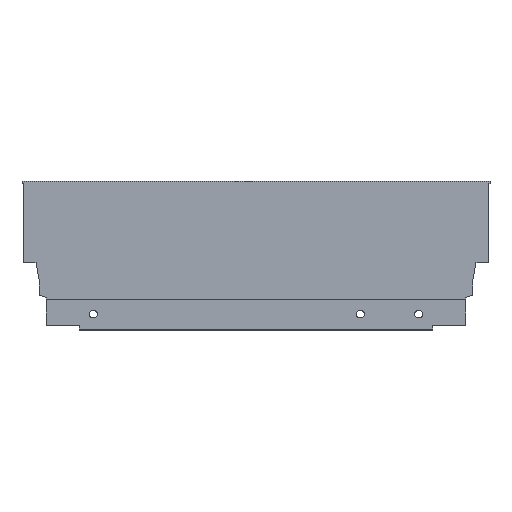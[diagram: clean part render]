
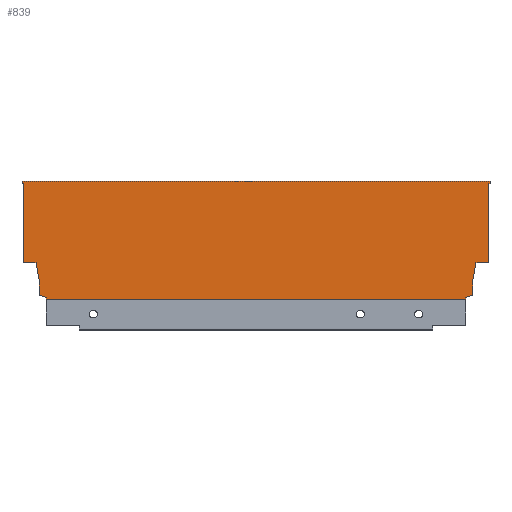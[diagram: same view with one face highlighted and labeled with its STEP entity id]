
A CAD part, top view. The second image highlights one B-rep face of the part: STEP entity #839.
In plain terms, the highlighted planar face has unit normal (0, 0, 1).
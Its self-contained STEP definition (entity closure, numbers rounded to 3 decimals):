
#102 = LINE ( 'NONE', #1101, #103 ) ;
#103 = VECTOR ( 'NONE', #1102, 1000. ) ;
#131 = LINE ( 'NONE', #1148, #154 ) ;
#135 = LINE ( 'NONE', #1140, #136 ) ;
#136 = VECTOR ( 'NONE', #1141, 1000. ) ;
#138 = LINE ( 'NONE', #1135, #142 ) ;
#140 = LINE ( 'NONE', #1146, #141 ) ;
#141 = VECTOR ( 'NONE', #1147, 1000. ) ;
#142 = VECTOR ( 'NONE', #1149, 1000. ) ;
#144 = LINE ( 'NONE', #1150, #145 ) ;
#145 = VECTOR ( 'NONE', #1151, 1000. ) ;
#146 = LINE ( 'NONE', #1152, #147 ) ;
#147 = VECTOR ( 'NONE', #1153, 1000. ) ;
#148 = LINE ( 'NONE', #1154, #149 ) ;
#149 = VECTOR ( 'NONE', #1155, 1000. ) ;
#150 = LINE ( 'NONE', #1156, #151 ) ;
#151 = VECTOR ( 'NONE', #1157, 1000. ) ;
#152 = LINE ( 'NONE', #1159, #153 ) ;
#153 = VECTOR ( 'NONE', #1160, 1000. ) ;
#154 = VECTOR ( 'NONE', #1162, 1000. ) ;
#156 = LINE ( 'NONE', #1163, #157 ) ;
#157 = VECTOR ( 'NONE', #1164, 1000. ) ;
#158 = LINE ( 'NONE', #1165, #159 ) ;
#159 = VECTOR ( 'NONE', #1166, 1000. ) ;
#160 = LINE ( 'NONE', #1167, #161 ) ;
#161 = VECTOR ( 'NONE', #1168, 1000. ) ;
#162 = LINE ( 'NONE', #1169, #163 ) ;
#163 = VECTOR ( 'NONE', #1170, 1000. ) ;
#164 = LINE ( 'NONE', #1171, #165 ) ;
#165 = VECTOR ( 'NONE', #1172, 1000. ) ;
#166 = LINE ( 'NONE', #1173, #167 ) ;
#167 = VECTOR ( 'NONE', #1174, 1000. ) ;
#168 = LINE ( 'NONE', #1175, #169 ) ;
#169 = VECTOR ( 'NONE', #1176, 1000. ) ;
#170 = LINE ( 'NONE', #1593, #171 ) ;
#171 = VECTOR ( 'NONE', #1594, 1000. ) ;
#318 = AXIS2_PLACEMENT_3D ( 'NONE', #922, #928, #929 ) ;
#380 = EDGE_LOOP ( 'NONE', ( #429, #430, #431, #432, #433, #434, #435, #436, #437, #438, #439, #440, #441, #442, #1323, #1324, #1325, #1326 ) ) ;
#429 = ORIENTED_EDGE ( 'NONE', *, *, #1225, .F. ) ;
#430 = ORIENTED_EDGE ( 'NONE', *, *, #1220, .F. ) ;
#431 = ORIENTED_EDGE ( 'NONE', *, *, #1221, .T. ) ;
#432 = ORIENTED_EDGE ( 'NONE', *, *, #1222, .T. ) ;
#433 = ORIENTED_EDGE ( 'NONE', *, *, #1223, .F. ) ;
#434 = ORIENTED_EDGE ( 'NONE', *, *, #1216, .F. ) ;
#435 = ORIENTED_EDGE ( 'NONE', *, *, #1227, .F. ) ;
#436 = ORIENTED_EDGE ( 'NONE', *, *, #1224, .F. ) ;
#437 = ORIENTED_EDGE ( 'NONE', *, *, #1229, .F. ) ;
#438 = ORIENTED_EDGE ( 'NONE', *, *, #1219, .T. ) ;
#439 = ORIENTED_EDGE ( 'NONE', *, *, #1231, .F. ) ;
#440 = ORIENTED_EDGE ( 'NONE', *, *, #1233, .F. ) ;
#441 = ORIENTED_EDGE ( 'NONE', *, *, #1226, .F. ) ;
#442 = ORIENTED_EDGE ( 'NONE', *, *, #1228, .F. ) ;
#523 = VERTEX_POINT ( 'NONE', #738 ) ;
#542 = VERTEX_POINT ( 'NONE', #752 ) ;
#551 = VERTEX_POINT ( 'NONE', #761 ) ;
#558 = VERTEX_POINT ( 'NONE', #768 ) ;
#559 = VERTEX_POINT ( 'NONE', #769 ) ;
#566 = VERTEX_POINT ( 'NONE', #776 ) ;
#568 = VERTEX_POINT ( 'NONE', #778 ) ;
#572 = VERTEX_POINT ( 'NONE', #782 ) ;
#574 = VERTEX_POINT ( 'NONE', #784 ) ;
#575 = VERTEX_POINT ( 'NONE', #785 ) ;
#577 = VERTEX_POINT ( 'NONE', #787 ) ;
#578 = VERTEX_POINT ( 'NONE', #788 ) ;
#579 = VERTEX_POINT ( 'NONE', #789 ) ;
#584 = VERTEX_POINT ( 'NONE', #794 ) ;
#587 = VERTEX_POINT ( 'NONE', #797 ) ;
#591 = VERTEX_POINT ( 'NONE', #801 ) ;
#593 = VERTEX_POINT ( 'NONE', #803 ) ;
#595 = VERTEX_POINT ( 'NONE', #805 ) ;
#738 = CARTESIAN_POINT ( 'NONE',  ( 0., 21.2, 7.5 ) ) ;
#752 = CARTESIAN_POINT ( 'NONE',  ( 0., 66.5, 7.5 ) ) ;
#761 = CARTESIAN_POINT ( 'NONE',  ( 1., 66.5, 7.5 ) ) ;
#768 = CARTESIAN_POINT ( 'NONE',  ( -267., 21.2, 7.5 ) ) ;
#769 = CARTESIAN_POINT ( 'NONE',  ( -267., 66.5, 7.5 ) ) ;
#776 = CARTESIAN_POINT ( 'NONE',  ( 1., 68., 7.5 ) ) ;
#778 = CARTESIAN_POINT ( 'NONE',  ( -7.06, 21.2, 7.5 ) ) ;
#782 = CARTESIAN_POINT ( 'NONE',  ( -8.9, 2.64, 7.5 ) ) ;
#784 = CARTESIAN_POINT ( 'NONE',  ( -259.94, 21.2, 7.5 ) ) ;
#785 = CARTESIAN_POINT ( 'NONE',  ( -8.9, 10.765, 7.5 ) ) ;
#787 = CARTESIAN_POINT ( 'NONE',  ( -253.996, 1.146, 7.5 ) ) ;
#788 = CARTESIAN_POINT ( 'NONE',  ( -13.004, 1.146, 7.5 ) ) ;
#789 = CARTESIAN_POINT ( 'NONE',  ( -253.996, 0., 7.5 ) ) ;
#794 = CARTESIAN_POINT ( 'NONE',  ( -258.1, 2.64, 7.5 ) ) ;
#797 = CARTESIAN_POINT ( 'NONE',  ( -258.1, 10.765, 7.5 ) ) ;
#801 = CARTESIAN_POINT ( 'NONE',  ( -268., 68., 7.5 ) ) ;
#803 = CARTESIAN_POINT ( 'NONE',  ( -13.004, 0., 7.5 ) ) ;
#805 = CARTESIAN_POINT ( 'NONE',  ( -268., 66.5, 7.5 ) ) ;
#839 = ADVANCED_FACE ( 'NONE', ( #1580 ), #919, .T. ) ;
#919 = PLANE ( 'NONE',  #318 ) ;
#922 = CARTESIAN_POINT ( 'NONE',  ( -267., 0., 7.5 ) ) ;
#928 = DIRECTION ( 'NONE',  ( 0., 0., 1. ) ) ;
#929 = DIRECTION ( 'NONE',  ( 1., 0., 0. ) ) ;
#1101 = CARTESIAN_POINT ( 'NONE',  ( 0., 0., 7.5 ) ) ;
#1102 = DIRECTION ( 'NONE',  ( 0., -1., 0. ) ) ;
#1135 = CARTESIAN_POINT ( 'NONE',  ( -268., 66.5, 7.5 ) ) ;
#1140 = CARTESIAN_POINT ( 'NONE',  ( -259.94, 21.2, 7.5 ) ) ;
#1141 = DIRECTION ( 'NONE',  ( -0.174, 0.985, 0. ) ) ;
#1146 = CARTESIAN_POINT ( 'NONE',  ( -267., 0., 7.5 ) ) ;
#1147 = DIRECTION ( 'NONE',  ( 1., 0., 0. ) ) ;
#1148 = CARTESIAN_POINT ( 'NONE',  ( -8.9, 10.765, 7.5 ) ) ;
#1149 = DIRECTION ( 'NONE',  ( 0., 1., 0. ) ) ;
#1150 = CARTESIAN_POINT ( 'NONE',  ( -268., 66.5, 7.5 ) ) ;
#1151 = DIRECTION ( 'NONE',  ( 1., 0., 0. ) ) ;
#1152 = CARTESIAN_POINT ( 'NONE',  ( -267., 0., 7.5 ) ) ;
#1153 = DIRECTION ( 'NONE',  ( 0., -1., 0. ) ) ;
#1154 = CARTESIAN_POINT ( 'NONE',  ( -272., 21.2, 7.5 ) ) ;
#1155 = DIRECTION ( 'NONE',  ( -1., 0., 0. ) ) ;
#1156 = CARTESIAN_POINT ( 'NONE',  ( -258.1, 2.64, 7.5 ) ) ;
#1157 = DIRECTION ( 'NONE',  ( -0.94, 0.342, 0. ) ) ;
#1159 = CARTESIAN_POINT ( 'NONE',  ( -267., 68., 7.5 ) ) ;
#1160 = DIRECTION ( 'NONE',  ( 1., 0., 0. ) ) ;
#1162 = DIRECTION ( 'NONE',  ( 0., -1., 0. ) ) ;
#1163 = CARTESIAN_POINT ( 'NONE',  ( -258.1, 10.765, 7.5 ) ) ;
#1164 = DIRECTION ( 'NONE',  ( 0., 1., 0. ) ) ;
#1165 = CARTESIAN_POINT ( 'NONE',  ( -7.06, 21.2, 7.5 ) ) ;
#1166 = DIRECTION ( 'NONE',  ( -0.174, -0.985, 0. ) ) ;
#1167 = CARTESIAN_POINT ( 'NONE',  ( -253.996, 1.146, 7.5 ) ) ;
#1168 = DIRECTION ( 'NONE',  ( 0., 1., 0. ) ) ;
#1169 = CARTESIAN_POINT ( 'NONE',  ( 0., 21.2, 7.5 ) ) ;
#1170 = DIRECTION ( 'NONE',  ( -1., 0., 0. ) ) ;
#1171 = CARTESIAN_POINT ( 'NONE',  ( -13.004, 1.146, 7.5 ) ) ;
#1172 = DIRECTION ( 'NONE',  ( 0., -1., 0. ) ) ;
#1173 = CARTESIAN_POINT ( 'NONE',  ( 1., 66.5, 7.5 ) ) ;
#1174 = DIRECTION ( 'NONE',  ( -1., 0., 0. ) ) ;
#1175 = CARTESIAN_POINT ( 'NONE',  ( -8.9, 2.64, 7.5 ) ) ;
#1176 = DIRECTION ( 'NONE',  ( -0.94, -0.342, 0. ) ) ;
#1198 = EDGE_CURVE ( 'NONE', #542, #523, #102, .T. ) ;
#1216 = EDGE_CURVE ( 'NONE', #587, #574, #135, .T. ) ;
#1219 = EDGE_CURVE ( 'NONE', #579, #593, #140, .T. ) ;
#1220 = EDGE_CURVE ( 'NONE', #595, #591, #138, .T. ) ;
#1221 = EDGE_CURVE ( 'NONE', #595, #559, #144, .T. ) ;
#1222 = EDGE_CURVE ( 'NONE', #559, #558, #146, .T. ) ;
#1223 = EDGE_CURVE ( 'NONE', #574, #558, #148, .T. ) ;
#1224 = EDGE_CURVE ( 'NONE', #577, #584, #150, .T. ) ;
#1225 = EDGE_CURVE ( 'NONE', #591, #566, #152, .T. ) ;
#1226 = EDGE_CURVE ( 'NONE', #575, #572, #131, .T. ) ;
#1227 = EDGE_CURVE ( 'NONE', #584, #587, #156, .T. ) ;
#1228 = EDGE_CURVE ( 'NONE', #568, #575, #158, .T. ) ;
#1229 = EDGE_CURVE ( 'NONE', #579, #577, #160, .T. ) ;
#1230 = EDGE_CURVE ( 'NONE', #523, #568, #162, .T. ) ;
#1231 = EDGE_CURVE ( 'NONE', #578, #593, #164, .T. ) ;
#1232 = EDGE_CURVE ( 'NONE', #551, #542, #166, .T. ) ;
#1233 = EDGE_CURVE ( 'NONE', #572, #578, #168, .T. ) ;
#1234 = EDGE_CURVE ( 'NONE', #566, #551, #170, .T. ) ;
#1323 = ORIENTED_EDGE ( 'NONE', *, *, #1230, .F. ) ;
#1324 = ORIENTED_EDGE ( 'NONE', *, *, #1198, .F. ) ;
#1325 = ORIENTED_EDGE ( 'NONE', *, *, #1232, .F. ) ;
#1326 = ORIENTED_EDGE ( 'NONE', *, *, #1234, .F. ) ;
#1580 = FACE_OUTER_BOUND ( 'NONE', #380, .T. ) ;
#1593 = CARTESIAN_POINT ( 'NONE',  ( 1., 68., 7.5 ) ) ;
#1594 = DIRECTION ( 'NONE',  ( 0., -1., 0. ) ) ;
